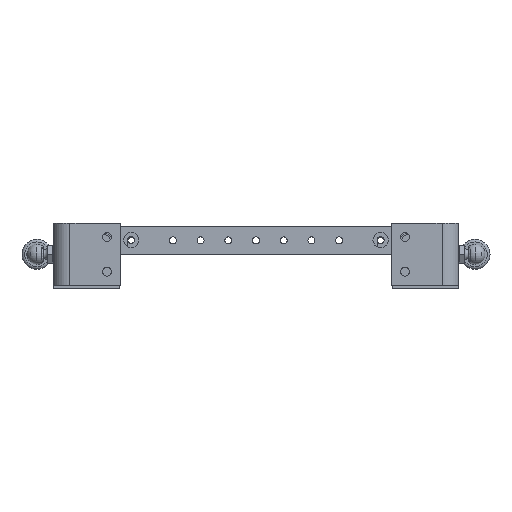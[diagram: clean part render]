
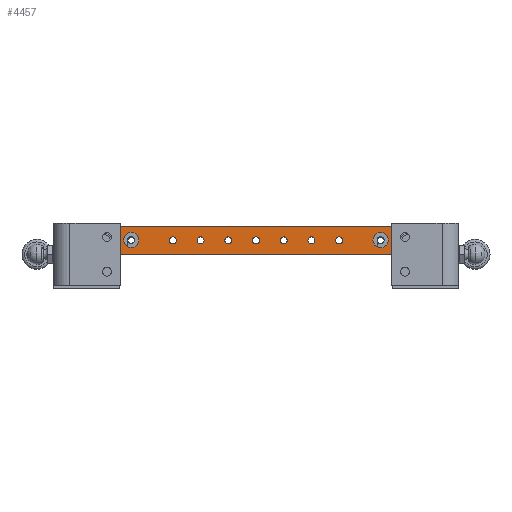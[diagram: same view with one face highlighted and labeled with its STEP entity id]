
A CAD part, front view. The second image highlights one B-rep face of the part: STEP entity #4457.
In plain terms, the highlighted planar face has unit normal (0, -1, 0) as drawn and (0, 1, 0) by its records, which use the part's own axes.
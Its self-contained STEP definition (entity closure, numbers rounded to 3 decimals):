
#429=FACE_BOUND('',#1147,.T.);
#430=FACE_BOUND('',#1148,.T.);
#431=FACE_BOUND('',#1149,.T.);
#432=FACE_BOUND('',#1150,.T.);
#433=FACE_BOUND('',#1151,.T.);
#434=FACE_BOUND('',#1152,.T.);
#435=FACE_BOUND('',#1153,.T.);
#436=FACE_BOUND('',#1154,.T.);
#437=FACE_BOUND('',#1155,.T.);
#438=FACE_BOUND('',#1156,.T.);
#439=FACE_BOUND('',#1157,.T.);
#440=FACE_BOUND('',#1158,.T.);
#441=FACE_BOUND('',#1159,.T.);
#530=CIRCLE('',#4780,2.5);
#532=CIRCLE('',#4783,2.5);
#534=CIRCLE('',#4786,2.5);
#536=CIRCLE('',#4789,2.5);
#538=CIRCLE('',#4792,2.5);
#540=CIRCLE('',#4795,2.5);
#542=CIRCLE('',#4798,2.5);
#570=CIRCLE('',#4851,5.5);
#573=CIRCLE('',#4856,5.5);
#578=CIRCLE('',#4864,7.5);
#581=CIRCLE('',#4870,7.5);
#584=CIRCLE('',#4876,7.5);
#587=CIRCLE('',#4882,7.5);
#818=FACE_OUTER_BOUND('',#1146,.T.);
#1146=EDGE_LOOP('',(#3355,#3356,#3357,#3358,#3359,#3360,#3361,#3362));
#1147=EDGE_LOOP('',(#3363));
#1148=EDGE_LOOP('',(#3364));
#1149=EDGE_LOOP('',(#3365));
#1150=EDGE_LOOP('',(#3366));
#1151=EDGE_LOOP('',(#3367));
#1152=EDGE_LOOP('',(#3368));
#1153=EDGE_LOOP('',(#3369));
#1154=EDGE_LOOP('',(#3370));
#1155=EDGE_LOOP('',(#3371));
#1156=EDGE_LOOP('',(#3372));
#1157=EDGE_LOOP('',(#3373));
#1158=EDGE_LOOP('',(#3374));
#1159=EDGE_LOOP('',(#3375));
#1461=LINE('',#6783,#1727);
#1467=LINE('',#6794,#1733);
#1474=LINE('',#6821,#1740);
#1477=LINE('',#6826,#1743);
#1478=LINE('',#6833,#1744);
#1481=LINE('',#6838,#1747);
#1482=LINE('',#6841,#1748);
#1502=LINE('',#6942,#1768);
#1727=VECTOR('',#5497,10.);
#1733=VECTOR('',#5505,10.);
#1740=VECTOR('',#5528,10.);
#1743=VECTOR('',#5533,10.);
#1744=VECTOR('',#5540,10.);
#1747=VECTOR('',#5545,10.);
#1748=VECTOR('',#5548,10.);
#1768=VECTOR('',#5674,10.);
#1987=VERTEX_POINT('',#6703);
#1989=VERTEX_POINT('',#6709);
#1991=VERTEX_POINT('',#6715);
#1993=VERTEX_POINT('',#6721);
#1995=VERTEX_POINT('',#6727);
#1997=VERTEX_POINT('',#6733);
#1999=VERTEX_POINT('',#6739);
#2013=VERTEX_POINT('',#6781);
#2014=VERTEX_POINT('',#6782);
#2018=VERTEX_POINT('',#6792);
#2030=VERTEX_POINT('',#6820);
#2031=VERTEX_POINT('',#6824);
#2034=VERTEX_POINT('',#6832);
#2035=VERTEX_POINT('',#6836);
#2036=VERTEX_POINT('',#6840);
#2047=VERTEX_POINT('',#6876);
#2050=VERTEX_POINT('',#6885);
#2055=VERTEX_POINT('',#6899);
#2058=VERTEX_POINT('',#6910);
#2061=VERTEX_POINT('',#6921);
#2064=VERTEX_POINT('',#6932);
#2436=EDGE_CURVE('',#1987,#1987,#530,.T.);
#2439=EDGE_CURVE('',#1989,#1989,#532,.T.);
#2442=EDGE_CURVE('',#1991,#1991,#534,.T.);
#2445=EDGE_CURVE('',#1993,#1993,#536,.T.);
#2448=EDGE_CURVE('',#1995,#1995,#538,.T.);
#2451=EDGE_CURVE('',#1997,#1997,#540,.T.);
#2454=EDGE_CURVE('',#1999,#1999,#542,.T.);
#2475=EDGE_CURVE('',#2013,#2014,#1461,.T.);
#2481=EDGE_CURVE('',#2013,#2018,#1467,.T.);
#2494=EDGE_CURVE('',#2030,#2018,#1474,.T.);
#2497=EDGE_CURVE('',#2030,#2031,#1477,.T.);
#2500=EDGE_CURVE('',#2034,#2031,#1478,.T.);
#2503=EDGE_CURVE('',#2034,#2035,#1481,.T.);
#2504=EDGE_CURVE('',#2036,#2035,#1482,.T.);
#2522=EDGE_CURVE('',#2047,#2047,#570,.T.);
#2526=EDGE_CURVE('',#2050,#2050,#573,.T.);
#2532=EDGE_CURVE('',#2055,#2055,#578,.T.);
#2537=EDGE_CURVE('',#2058,#2058,#581,.T.);
#2542=EDGE_CURVE('',#2061,#2061,#584,.T.);
#2547=EDGE_CURVE('',#2064,#2064,#587,.T.);
#2552=EDGE_CURVE('',#2036,#2014,#1502,.T.);
#3355=ORIENTED_EDGE('',*,*,#2475,.F.);
#3356=ORIENTED_EDGE('',*,*,#2481,.T.);
#3357=ORIENTED_EDGE('',*,*,#2494,.F.);
#3358=ORIENTED_EDGE('',*,*,#2497,.T.);
#3359=ORIENTED_EDGE('',*,*,#2500,.F.);
#3360=ORIENTED_EDGE('',*,*,#2503,.T.);
#3361=ORIENTED_EDGE('',*,*,#2504,.F.);
#3362=ORIENTED_EDGE('',*,*,#2552,.T.);
#3363=ORIENTED_EDGE('',*,*,#2436,.T.);
#3364=ORIENTED_EDGE('',*,*,#2439,.T.);
#3365=ORIENTED_EDGE('',*,*,#2442,.T.);
#3366=ORIENTED_EDGE('',*,*,#2445,.T.);
#3367=ORIENTED_EDGE('',*,*,#2448,.T.);
#3368=ORIENTED_EDGE('',*,*,#2451,.T.);
#3369=ORIENTED_EDGE('',*,*,#2454,.T.);
#3370=ORIENTED_EDGE('',*,*,#2522,.T.);
#3371=ORIENTED_EDGE('',*,*,#2526,.T.);
#3372=ORIENTED_EDGE('',*,*,#2532,.T.);
#3373=ORIENTED_EDGE('',*,*,#2537,.T.);
#3374=ORIENTED_EDGE('',*,*,#2542,.T.);
#3375=ORIENTED_EDGE('',*,*,#2547,.T.);
#4311=PLANE('',#4887);
#4457=ADVANCED_FACE('',(#818,#429,#430,#431,#432,#433,#434,#435,#436,#437,
#438,#439,#440,#441),#4311,.T.);
#4780=AXIS2_PLACEMENT_3D('',#6704,#5406,#5407);
#4783=AXIS2_PLACEMENT_3D('',#6710,#5413,#5414);
#4786=AXIS2_PLACEMENT_3D('',#6716,#5420,#5421);
#4789=AXIS2_PLACEMENT_3D('',#6722,#5427,#5428);
#4792=AXIS2_PLACEMENT_3D('',#6728,#5434,#5435);
#4795=AXIS2_PLACEMENT_3D('',#6734,#5441,#5442);
#4798=AXIS2_PLACEMENT_3D('',#6740,#5448,#5449);
#4851=AXIS2_PLACEMENT_3D('',#6877,#5590,#5591);
#4856=AXIS2_PLACEMENT_3D('',#6886,#5601,#5602);
#4864=AXIS2_PLACEMENT_3D('',#6900,#5618,#5619);
#4870=AXIS2_PLACEMENT_3D('',#6911,#5632,#5633);
#4876=AXIS2_PLACEMENT_3D('',#6922,#5646,#5647);
#4882=AXIS2_PLACEMENT_3D('',#6933,#5660,#5661);
#4887=AXIS2_PLACEMENT_3D('',#6943,#5675,#5676);
#5406=DIRECTION('center_axis',(0.,-1.,0.));
#5407=DIRECTION('ref_axis',(-1.,0.,0.));
#5413=DIRECTION('center_axis',(0.,-1.,0.));
#5414=DIRECTION('ref_axis',(-1.,0.,0.));
#5420=DIRECTION('center_axis',(0.,-1.,0.));
#5421=DIRECTION('ref_axis',(-1.,0.,0.));
#5427=DIRECTION('center_axis',(0.,-1.,0.));
#5428=DIRECTION('ref_axis',(-1.,0.,0.));
#5434=DIRECTION('center_axis',(0.,-1.,0.));
#5435=DIRECTION('ref_axis',(-1.,0.,0.));
#5441=DIRECTION('center_axis',(0.,-1.,0.));
#5442=DIRECTION('ref_axis',(-1.,0.,0.));
#5448=DIRECTION('center_axis',(0.,-1.,0.));
#5449=DIRECTION('ref_axis',(-1.,0.,0.));
#5497=DIRECTION('',(0.707,0.,-0.707));
#5505=DIRECTION('',(0.,0.,1.));
#5528=DIRECTION('',(-0.707,0.,-0.707));
#5533=DIRECTION('',(1.,0.,0.));
#5540=DIRECTION('',(-0.707,0.,0.707));
#5545=DIRECTION('',(0.,0.,-1.));
#5548=DIRECTION('',(0.707,0.,0.707));
#5590=DIRECTION('center_axis',(0.,-1.,0.));
#5591=DIRECTION('ref_axis',(-1.,0.,0.));
#5601=DIRECTION('center_axis',(0.,-1.,0.));
#5602=DIRECTION('ref_axis',(-1.,0.,0.));
#5618=DIRECTION('center_axis',(0.,-1.,0.));
#5619=DIRECTION('ref_axis',(0.,0.,1.));
#5632=DIRECTION('center_axis',(0.,-1.,0.));
#5633=DIRECTION('ref_axis',(0.,0.,1.));
#5646=DIRECTION('center_axis',(0.,-1.,0.));
#5647=DIRECTION('ref_axis',(0.,0.,1.));
#5660=DIRECTION('center_axis',(0.,-1.,0.));
#5661=DIRECTION('ref_axis',(0.,0.,1.));
#5674=DIRECTION('',(-1.,0.,0.));
#5675=DIRECTION('center_axis',(0.,1.,0.));
#5676=DIRECTION('ref_axis',(-1.,0.,0.));
#6703=CARTESIAN_POINT('',(119.75,260.,35.));
#6704=CARTESIAN_POINT('Origin',(117.25,260.,35.));
#6709=CARTESIAN_POINT('',(39.75,260.,35.));
#6710=CARTESIAN_POINT('Origin',(37.25,260.,35.));
#6715=CARTESIAN_POINT('',(99.75,260.,35.));
#6716=CARTESIAN_POINT('Origin',(97.25,260.,35.));
#6721=CARTESIAN_POINT('',(139.75,260.,35.));
#6722=CARTESIAN_POINT('Origin',(137.25,260.,35.));
#6727=CARTESIAN_POINT('',(59.75,260.,35.));
#6728=CARTESIAN_POINT('Origin',(57.25,260.,35.));
#6733=CARTESIAN_POINT('',(79.75,260.,35.));
#6734=CARTESIAN_POINT('Origin',(77.25,260.,35.));
#6739=CARTESIAN_POINT('',(159.75,260.,35.));
#6740=CARTESIAN_POINT('Origin',(157.25,260.,35.));
#6781=CARTESIAN_POINT('',(-49.,260.,26.));
#6782=CARTESIAN_POINT('',(-48.,260.,25.));
#6783=CARTESIAN_POINT('',(-14.438,260.,-8.563));
#6792=CARTESIAN_POINT('',(-49.,260.,44.));
#6794=CARTESIAN_POINT('',(-49.,260.,25.));
#6820=CARTESIAN_POINT('',(-48.,260.,45.));
#6821=CARTESIAN_POINT('',(-14.438,260.,78.563));
#6824=CARTESIAN_POINT('',(242.5,260.,45.));
#6826=CARTESIAN_POINT('',(-49.,260.,45.));
#6832=CARTESIAN_POINT('',(243.5,260.,44.));
#6833=CARTESIAN_POINT('',(208.937,260.,78.563));
#6836=CARTESIAN_POINT('',(243.5,260.,26.));
#6838=CARTESIAN_POINT('',(243.5,260.,45.));
#6840=CARTESIAN_POINT('',(242.5,260.,25.));
#6841=CARTESIAN_POINT('',(208.938,260.,-8.563));
#6876=CARTESIAN_POINT('',(12.75,260.,34.64));
#6877=CARTESIAN_POINT('Origin',(7.25,260.,34.64));
#6885=CARTESIAN_POINT('',(192.65,260.,34.81));
#6886=CARTESIAN_POINT('Origin',(187.15,260.,34.81));
#6899=CARTESIAN_POINT('',(206.5,260.,27.5));
#6900=CARTESIAN_POINT('Origin',(206.5,260.,35.));
#6910=CARTESIAN_POINT('',(-37.,260.,27.5));
#6911=CARTESIAN_POINT('Origin',(-37.,260.,35.));
#6921=CARTESIAN_POINT('',(-12.,260.,27.5));
#6922=CARTESIAN_POINT('Origin',(-12.,260.,35.));
#6932=CARTESIAN_POINT('',(231.5,260.,27.5));
#6933=CARTESIAN_POINT('Origin',(231.5,260.,35.));
#6942=CARTESIAN_POINT('',(243.5,260.,25.));
#6943=CARTESIAN_POINT('Origin',(97.25,260.,35.));
